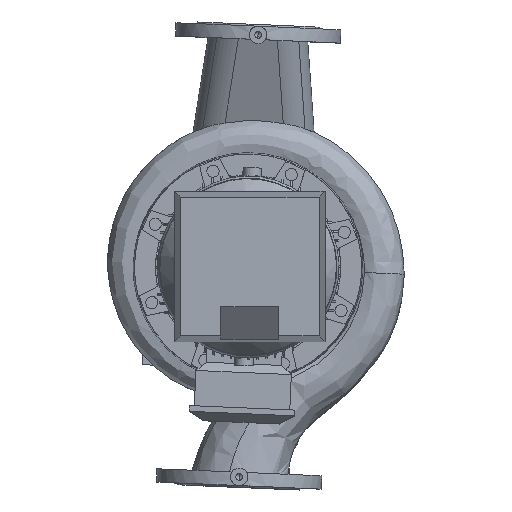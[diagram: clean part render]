
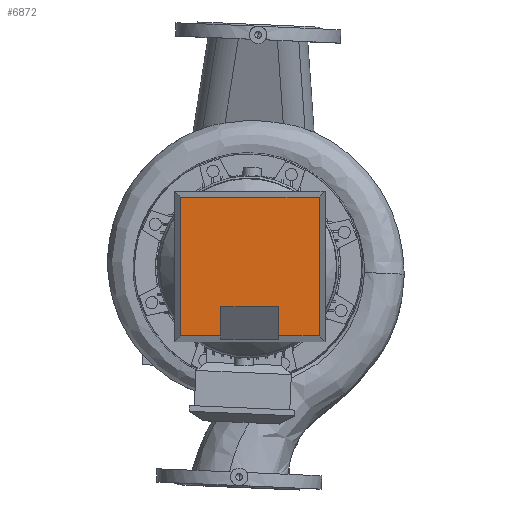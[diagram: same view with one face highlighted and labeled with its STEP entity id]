
A CAD part, top view. The second image highlights one B-rep face of the part: STEP entity #6872.
In plain terms, the highlighted planar face has unit normal (0, 0, 1) as drawn and (0, 1, 0) by its records, which use the part's own axes.
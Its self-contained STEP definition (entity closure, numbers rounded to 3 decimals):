
#6872=ADVANCED_FACE('',(#14189),#14190,.T.);
#6882=EDGE_CURVE('',#14205,#14202,#14206,.T.);
#14189=FACE_OUTER_BOUND('',#25117,.T.);
#14190=PLANE('',#25118);
#14202=VERTEX_POINT('',#25131);
#14205=VERTEX_POINT('',#25136);
#14206=LINE('',#25137,#25138);
#25117=EDGE_LOOP('',(#43852,#43853,#43854,#43855,#43856,#43857,#43858,#43859));
#25118=AXIS2_PLACEMENT_3D('',#43860,#43861,#43862);
#25131=CARTESIAN_POINT('',(-50.0,90.0,199.485));
#25136=CARTESIAN_POINT('',(-50.0,90.0,250.0));
#25137=CARTESIAN_POINT('',(-50.0,90.0,127.834));
#25138=VECTOR('',#43888,1.0);
#43852=ORIENTED_EDGE('',*,*,#50701,.T.);
#43853=ORIENTED_EDGE('',*,*,#50707,.F.);
#43854=ORIENTED_EDGE('',*,*,#50715,.F.);
#43855=ORIENTED_EDGE('',*,*,#50717,.F.);
#43856=ORIENTED_EDGE('',*,*,#50709,.F.);
#43857=ORIENTED_EDGE('',*,*,#50703,.F.);
#43858=ORIENTED_EDGE('',*,*,#6882,.T.);
#43859=ORIENTED_EDGE('',*,*,#50697,.T.);
#43860=CARTESIAN_POINT('',(0.0,90.0,0.0));
#43861=DIRECTION('',(0.0,1.0,-0.0));
#43862=DIRECTION('',(-1.0,0.0,0.0));
#43888=DIRECTION('',(0.0,-0.0,-1.0));
#50697=EDGE_CURVE('',#14202,#60587,#60590,.T.);
#50701=EDGE_CURVE('',#60587,#60593,#60595,.T.);
#50703=EDGE_CURVE('',#14205,#60597,#60598,.T.);
#50707=EDGE_CURVE('',#60603,#60593,#60605,.T.);
#50709=EDGE_CURVE('',#60597,#60607,#60608,.T.);
#50715=EDGE_CURVE('',#60613,#60603,#60615,.T.);
#50717=EDGE_CURVE('',#60607,#60613,#60617,.T.);
#60587=VERTEX_POINT('',#80884);
#60590=LINE('',#80888,#80889);
#60593=VERTEX_POINT('',#80893);
#60595=LINE('',#80896,#80897);
#60597=VERTEX_POINT('',#80899);
#60598=LINE('',#80900,#80901);
#60603=VERTEX_POINT('',#80908);
#60605=LINE('',#80911,#80912);
#60607=VERTEX_POINT('',#80914);
#60608=LINE('',#80915,#80916);
#60613=VERTEX_POINT('',#80924);
#60615=LINE('',#80927,#80928);
#60617=LINE('',#80930,#80931);
#80884=CARTESIAN_POINT('',(50.0,90.0,199.485));
#80888=CARTESIAN_POINT('',(-25.0,90.0,199.485));
#80889=VECTOR('',#87007,1.0);
#80893=CARTESIAN_POINT('',(50.0,90.0,250.0));
#80896=CARTESIAN_POINT('',(50.0,90.0,127.834));
#80897=VECTOR('',#87010,1.0);
#80899=CARTESIAN_POINT('',(-120.0,90.0,250.0));
#80900=CARTESIAN_POINT('',(65.0,90.0,250.0));
#80901=VECTOR('',#87011,1.0);
#80908=CARTESIAN_POINT('',(120.0,90.0,250.0));
#80911=CARTESIAN_POINT('',(65.0,90.0,250.0));
#80912=VECTOR('',#87015,1.0);
#80914=CARTESIAN_POINT('',(-120.0,90.0,10.0));
#80915=CARTESIAN_POINT('',(-120.0,90.0,0.0));
#80916=VECTOR('',#87016,1.0);
#80924=CARTESIAN_POINT('',(120.0,90.0,10.0));
#80927=CARTESIAN_POINT('',(120.0,90.0,0.0));
#80928=VECTOR('',#87021,1.0);
#80930=CARTESIAN_POINT('',(65.0,90.0,10.0));
#80931=VECTOR('',#87022,1.0);
#87007=DIRECTION('',(1.0,0.0,0.0));
#87010=DIRECTION('',(-0.0,0.0,1.0));
#87011=DIRECTION('',(-1.0,0.0,-0.0));
#87015=DIRECTION('',(-1.0,0.0,-0.0));
#87016=DIRECTION('',(-0.0,-0.0,-1.0));
#87021=DIRECTION('',(-0.0,0.0,1.0));
#87022=DIRECTION('',(1.0,-0.0,-0.0));
